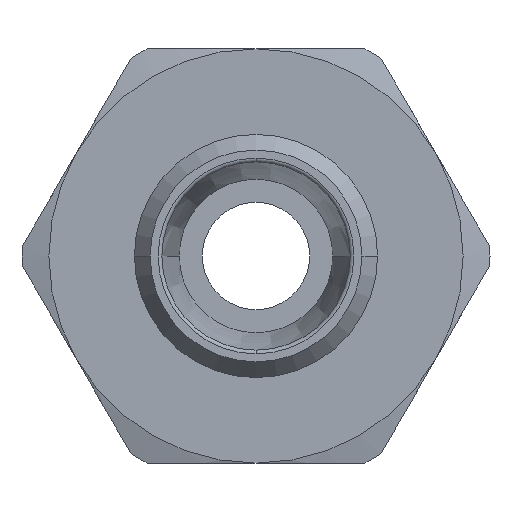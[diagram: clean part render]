
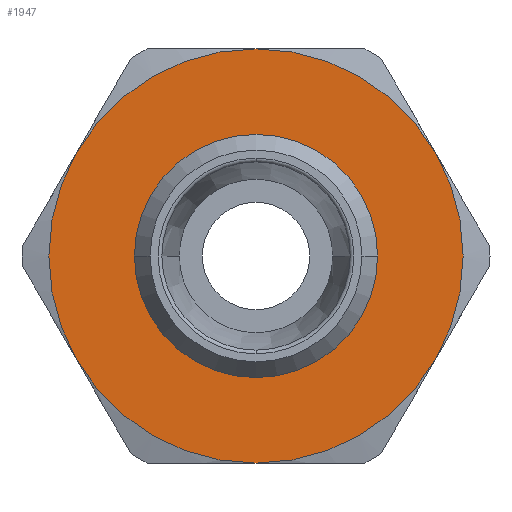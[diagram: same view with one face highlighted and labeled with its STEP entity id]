
A CAD part, left-side view. The second image highlights one B-rep face of the part: STEP entity #1947.
In plain terms, the highlighted planar face has unit normal (-1, 0, 0) as drawn and (0, 0, 1) by its records, which use the part's own axes.
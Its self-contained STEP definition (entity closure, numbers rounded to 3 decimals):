
#857=CARTESIAN_POINT('',(-7.8,0.,3.0));
#858=VERTEX_POINT('',#857);
#884=CARTESIAN_POINT('',(7.8,0.,3.0));
#885=VERTEX_POINT('',#884);
#893=CARTESIAN_POINT('',(0.,0.0,3.0));
#894=DIRECTION('',(0.0,0.0,1.0));
#895=DIRECTION('',(-1.0,0.0,0.0));
#896=AXIS2_PLACEMENT_3D('',#893,#894,#895);
#897=CIRCLE('',#896,7.8);
#898=EDGE_CURVE('',#885,#858,#897,.T.);
#1827=CARTESIAN_POINT('',(0.,-7.8,3.));
#1828=VERTEX_POINT('',#1827);
#1829=CARTESIAN_POINT('',(0.,0.0,3.0));
#1830=DIRECTION('',(0.0,0.0,1.0));
#1831=DIRECTION('',(-1.0,0.0,0.0));
#1832=AXIS2_PLACEMENT_3D('',#1829,#1830,#1831);
#1833=CIRCLE('',#1832,7.8);
#1834=EDGE_CURVE('',#858,#1828,#1833,.T.);
#1836=CARTESIAN_POINT('',(0.,0.0,3.0));
#1837=DIRECTION('',(0.0,0.0,1.0));
#1838=DIRECTION('',(-1.0,0.0,0.0));
#1839=AXIS2_PLACEMENT_3D('',#1836,#1837,#1838);
#1840=CIRCLE('',#1839,7.8);
#1841=EDGE_CURVE('',#1828,#885,#1840,.T.);
#1881=CARTESIAN_POINT('',(0.,0.,3.0));
#1882=DIRECTION('',(0.0,0.0,1.0));
#1883=DIRECTION('',(1.0,0.0,0.0));
#1884=AXIS2_PLACEMENT_3D('',#1881,#1882,#1883);
#1885=PLANE('',#1884);
#1886=CARTESIAN_POINT('',(6.75,-11.691,3.));
#1887=VERTEX_POINT('',#1886);
#1888=CARTESIAN_POINT('',(13.5,0.0,3.));
#1889=VERTEX_POINT('',#1888);
#1890=CARTESIAN_POINT('',(0.,0.0,3.0));
#1891=DIRECTION('',(0.0,0.0,1.0));
#1892=DIRECTION('',(1.0,0.0,0.0));
#1893=AXIS2_PLACEMENT_3D('',#1890,#1891,#1892);
#1894=CIRCLE('',#1893,13.5);
#1895=EDGE_CURVE('',#1887,#1889,#1894,.T.);
#1896=ORIENTED_EDGE('',*,*,#1895,.T.);
#1897=CARTESIAN_POINT('',(6.75,11.691,3.));
#1898=VERTEX_POINT('',#1897);
#1899=CARTESIAN_POINT('',(0.,0.0,3.0));
#1900=DIRECTION('',(0.0,0.0,1.0));
#1901=DIRECTION('',(1.0,0.0,0.0));
#1902=AXIS2_PLACEMENT_3D('',#1899,#1900,#1901);
#1903=CIRCLE('',#1902,13.5);
#1904=EDGE_CURVE('',#1889,#1898,#1903,.T.);
#1905=ORIENTED_EDGE('',*,*,#1904,.T.);
#1906=CARTESIAN_POINT('',(-6.75,11.691,3.));
#1907=VERTEX_POINT('',#1906);
#1908=CARTESIAN_POINT('',(0.,0.0,3.0));
#1909=DIRECTION('',(0.0,0.0,1.0));
#1910=DIRECTION('',(1.0,0.0,0.0));
#1911=AXIS2_PLACEMENT_3D('',#1908,#1909,#1910);
#1912=CIRCLE('',#1911,13.5);
#1913=EDGE_CURVE('',#1898,#1907,#1912,.T.);
#1914=ORIENTED_EDGE('',*,*,#1913,.T.);
#1915=CARTESIAN_POINT('',(-13.5,0.,3.));
#1916=VERTEX_POINT('',#1915);
#1917=CARTESIAN_POINT('',(0.,0.0,3.0));
#1918=DIRECTION('',(0.0,0.0,1.0));
#1919=DIRECTION('',(1.0,0.0,0.0));
#1920=AXIS2_PLACEMENT_3D('',#1917,#1918,#1919);
#1921=CIRCLE('',#1920,13.5);
#1922=EDGE_CURVE('',#1907,#1916,#1921,.T.);
#1923=ORIENTED_EDGE('',*,*,#1922,.T.);
#1924=CARTESIAN_POINT('',(-6.75,-11.691,3.));
#1925=VERTEX_POINT('',#1924);
#1926=CARTESIAN_POINT('',(0.,0.0,3.0));
#1927=DIRECTION('',(0.0,0.0,1.0));
#1928=DIRECTION('',(1.0,0.0,0.0));
#1929=AXIS2_PLACEMENT_3D('',#1926,#1927,#1928);
#1930=CIRCLE('',#1929,13.5);
#1931=EDGE_CURVE('',#1916,#1925,#1930,.T.);
#1932=ORIENTED_EDGE('',*,*,#1931,.T.);
#1933=CARTESIAN_POINT('',(0.,0.0,3.0));
#1934=DIRECTION('',(0.0,0.0,1.0));
#1935=DIRECTION('',(1.0,0.0,0.0));
#1936=AXIS2_PLACEMENT_3D('',#1933,#1934,#1935);
#1937=CIRCLE('',#1936,13.5);
#1938=EDGE_CURVE('',#1925,#1887,#1937,.T.);
#1939=ORIENTED_EDGE('',*,*,#1938,.T.);
#1940=EDGE_LOOP('',(#1896,#1905,#1914,#1923,#1932,#1939));
#1941=FACE_OUTER_BOUND('',#1940,.T.);
#1942=ORIENTED_EDGE('',*,*,#1841,.F.);
#1943=ORIENTED_EDGE('',*,*,#1834,.F.);
#1944=ORIENTED_EDGE('',*,*,#898,.F.);
#1945=EDGE_LOOP('',(#1942,#1943,#1944));
#1946=FACE_BOUND('',#1945,.T.);
#1947=ADVANCED_FACE('',(#1941,#1946),#1885,.T.);
